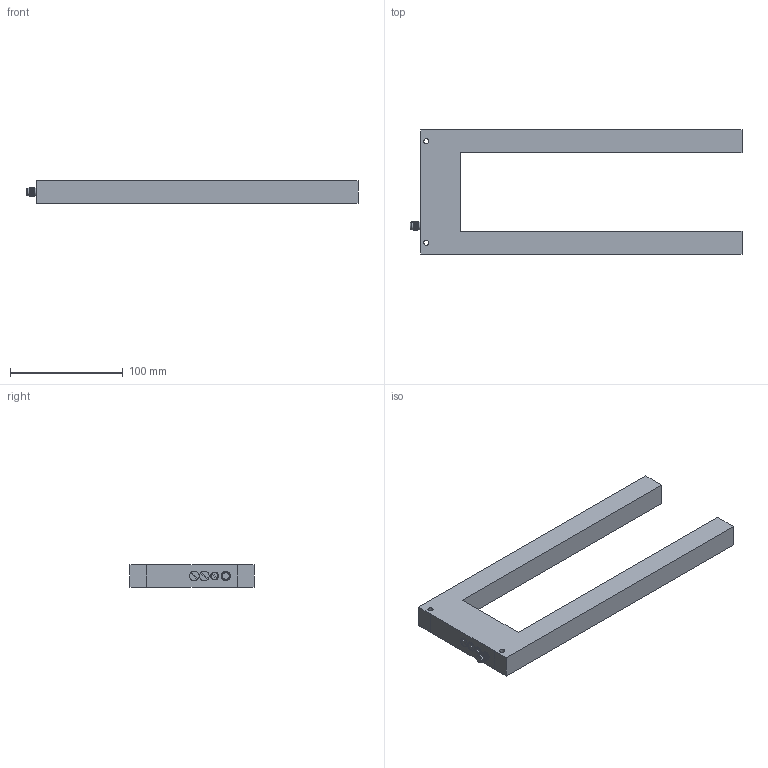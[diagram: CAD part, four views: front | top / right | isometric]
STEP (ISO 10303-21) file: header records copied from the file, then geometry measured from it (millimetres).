
FILE_DESCRIPTION(('STEP AP214'),'1');
FILE_NAME('F:/3D Modelle homepage/tmp0.step','2020-09-01T10:11:28',(' '),(' '),'Spatial InterOp 3D',' ',' ');
FILE_SCHEMA(('automotive_design'));
Length unit declared in the file: millimetre
Products named in the file (1): 1
Bounding box: 294.42 x 110 x 20 mm (x, y, z)
Volume: 276669.1 mm3; surface area: 54396.9 mm2
Topology: 1 solids, 1 shells, 86 faces, 208 edges, 135 vertices
Faces by surface type: plane 40, cylinder 36, cone 4, torus 4, bspline 2
Entity records: 5180 total; most frequent: CARTESIAN_POINT 2466, ORIENTED_EDGE 416, DIRECTION 400, EDGE_CURVE 208, AXIS2_PLACEMENT_3D 143, VERTEX_POINT 135, LINE 114, VECTOR 114
